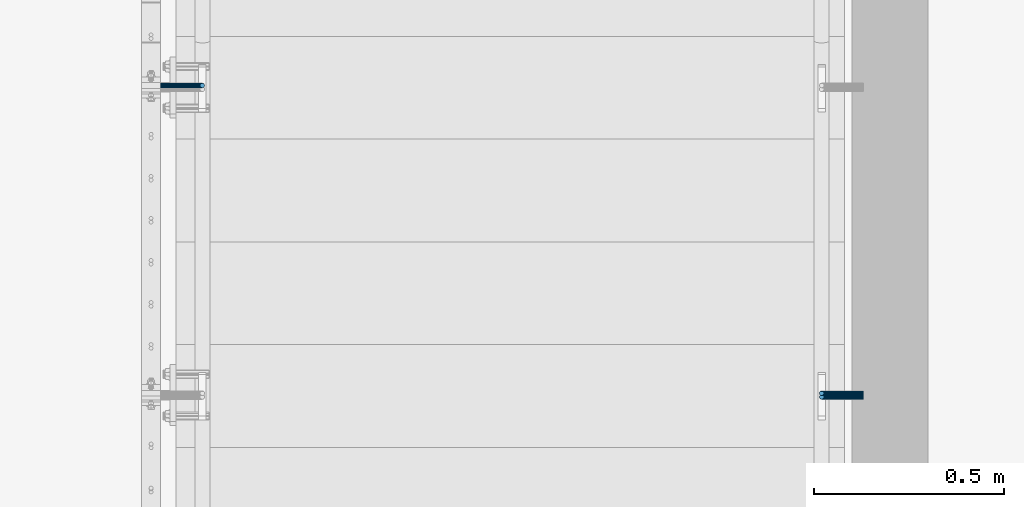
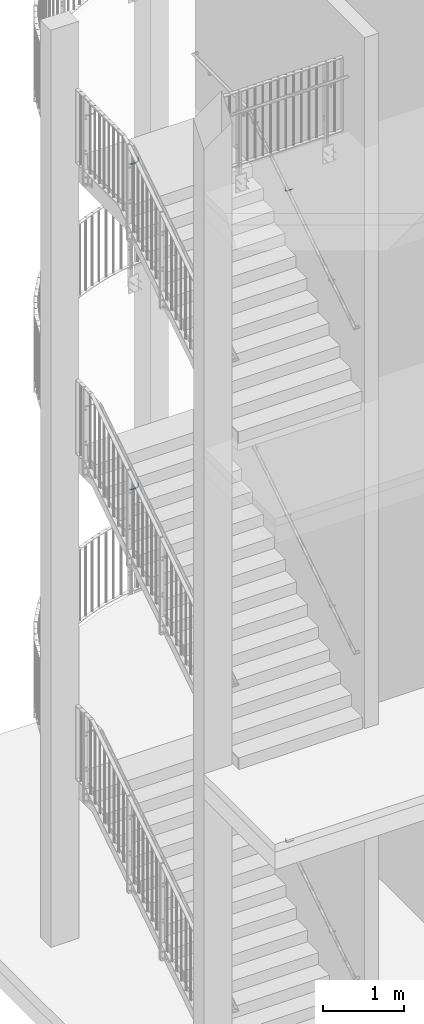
# One storey, part 131 of 296: 4 beams.
"""IFC2X3 building model written with IfcOpenShell, lengths in millimetres."""

from ifc_helpers import new_model, entity, si_unit, converted_unit, origin_with_axes, place, context, project, spatial, faceted_brep, material, element, save


model = new_model("IFC2X3")

# Units and contexts
model_context = context("Model", 3, precision=1e-09, world=origin_with_axes())
ifc_project = project(units=[si_unit("LENGTHUNIT", "METRE", prefix="MILLI"), si_unit("AREAUNIT", "SQUARE_METRE"), si_unit("VOLUMEUNIT", "CUBIC_METRE"), converted_unit("PLANEANGLEUNIT", "DEGREE", entity("IfcPlaneAngleMeasure", 0.01745329), si_unit("PLANEANGLEUNIT", "RADIAN"), dimensions=[0, 0, 0, 0, 0, 0, 0])], contexts=[model_context])

# Site, building, storey
site_placement = place(None, origin_with_axes())
site = spatial("IfcSite", under=ifc_project, at=site_placement, Name="TZD-S?d | Treppenhausgel?nder", CompositionType="ELEMENT")
building_placement = place(site_placement, origin_with_axes())
building = spatial("IfcBuilding", under=site, at=building_placement, Name="Struktur 1", CompositionType="ELEMENT")
storey_placement = place(building_placement, origin_with_axes())
storey = spatial("IfcBuildingStorey", under=building, at=storey_placement, Name="Default Storey", CompositionType="ELEMENT", Elevation=0.0)

# Beams
ifc_material = material(Name="S235JR")
beam_1_placement = place(None, origin_with_axes())
element("IfcBeam", 1, at=beam_1_placement, inside=storey, material=ifc_material, Name="-", ObjectType="-", context=model_context, shape_type="Brep", body=[
    faceted_brep([(1716.893577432, -2374.998162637, 2186.446240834), (1723.106422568, -2374.998162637, 2186.446240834), (1722.296100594, -2374.456722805, 2186.446240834), (1720.0, -2374.0, 2186.446240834), (1717.703899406, -2374.456722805, 2186.446240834), (1715.757359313, -2384.242640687, 2180.448769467), (1714.456722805, -2382.296100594, 2181.711611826), (1714.456722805, -2382.296100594, 2141.446240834), (1715.757359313, -2384.242640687, 2141.446240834), (1717.703899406, -2385.543277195, 2179.604965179), (1717.703899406, -2385.543277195, 2141.446240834), (1720.0, -2386.0, 2179.308660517), (1720.0, -2386.0, 2141.446240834), (1722.296100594, -2385.543277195, 2179.604965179), (1722.296100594, -2385.543277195, 2141.446240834), (1724.242640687, -2384.242640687, 2180.448769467), (1724.242640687, -2384.242640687, 2141.446240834), (1725.543277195, -2382.296100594, 2181.711611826), (1725.543277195, -2382.296100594, 2141.446240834), (1726.0, -2380.0, 2183.201235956), (1726.0, -2380.0, 2141.446240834), (1725.543277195, -2377.703899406, 2184.690860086), (1725.543277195, -2377.703899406, 2141.446240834), (1724.242640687, -2375.757359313, 2185.953702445), (1724.242640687, -2375.757359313, 2141.446240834), (1722.296100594, -2374.456722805, 2141.446240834), (1720.0, -2374.0, 2141.446240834), (1717.703899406, -2374.456722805, 2141.446240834), (1715.757359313, -2375.757359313, 2185.953702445), (1715.757359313, -2375.757359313, 2141.446240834), (1714.456722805, -2377.703899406, 2184.690860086), (1714.456722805, -2377.703899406, 2141.446240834), (1714.0, -2380.0, 2183.201235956), (1714.0, -2380.0, 2141.446240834), (1830.0, -2384.242640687, 2117.203600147), (1830.0, -2382.296100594, 2115.902963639), (1830.0, -2380.0, 2115.446240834), (1830.0, -2377.703899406, 2115.902963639), (1830.0, -2375.757359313, 2117.203600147), (1830.0, -2374.456722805, 2119.15014024), (1830.0, -2374.0, 2121.446240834), (1830.0, -2374.456722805, 2123.742341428), (1830.0, -2375.757359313, 2125.688881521), (1830.0, -2377.703899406, 2126.989518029), (1830.0, -2380.0, 2127.446240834), (1830.0, -2382.296100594, 2126.989518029), (1830.0, -2384.242640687, 2125.688881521), (1830.0, -2385.543277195, 2123.742341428), (1830.0, -2386.0, 2121.446240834), (1830.0, -2385.543277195, 2119.15014024), (1716.401089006, -2382.296100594, 2131.671251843), (1717.602720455, -2384.242640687, 2132.168983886), (1719.401089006, -2385.543277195, 2132.91389253), (1721.52240935, -2386.0, 2133.792572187), (1723.643729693, -2385.543277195, 2134.671251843), (1725.442098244, -2384.242640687, 2135.416160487), (1726.643729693, -2382.296100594, 2135.91389253), (1727.065686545, -2380.0, 2136.088672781), (1726.643729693, -2377.703899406, 2135.91389253), (1725.442098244, -2375.757359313, 2135.416160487), (1723.643729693, -2374.456722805, 2134.671251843), (1721.52240935, -2374.0, 2133.792572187), (1719.401089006, -2374.456722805, 2132.91389253), (1717.602720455, -2375.757359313, 2132.168983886), (1716.401089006, -2377.703899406, 2131.671251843), (1715.979132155, -2380.0, 2131.496471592), (1721.938175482, -2382.296100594, 2123.384416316), (1722.857864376, -2384.242640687, 2124.30410521), (1724.234276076, -2385.543277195, 2125.68051691), (1725.857864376, -2386.0, 2127.30410521), (1727.481452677, -2385.543277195, 2128.927693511), (1728.857864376, -2384.242640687, 2130.30410521), (1729.777553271, -2382.296100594, 2131.223794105), (1730.100505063, -2380.0, 2131.546745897), (1729.777553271, -2377.703899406, 2131.223794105), (1728.857864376, -2375.757359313, 2130.30410521), (1727.481452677, -2374.456722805, 2128.927693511), (1725.857864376, -2374.0, 2127.30410521), (1724.234276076, -2374.456722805, 2125.68051691), (1722.857864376, -2375.757359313, 2124.30410521), (1721.938175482, -2377.703899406, 2123.384416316), (1721.615223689, -2380.0, 2123.061464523), (1730.225011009, -2382.296100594, 2117.84732984), (1730.722743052, -2384.242640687, 2119.048961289), (1731.467651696, -2385.543277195, 2120.84732984), (1732.346331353, -2386.0, 2122.968650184), (1733.225011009, -2385.543277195, 2125.089970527), (1733.969919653, -2384.242640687, 2126.888339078), (1734.467651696, -2382.296100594, 2128.089970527), (1734.642431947, -2380.0, 2128.511927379), (1734.467651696, -2377.703899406, 2128.089970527), (1733.969919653, -2375.757359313, 2126.888339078), (1733.225011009, -2374.456722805, 2125.089970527), (1732.346331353, -2374.0, 2122.968650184), (1731.467651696, -2374.456722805, 2120.84732984), (1730.722743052, -2375.757359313, 2119.048961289), (1730.225011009, -2377.703899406, 2117.84732984), (1730.050230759, -2380.0, 2117.425372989), (1740.0, -2382.296100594, 2115.902963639), (1740.0, -2384.242640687, 2117.203600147), (1740.0, -2385.543277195, 2119.15014024), (1740.0, -2386.0, 2121.446240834), (1740.0, -2385.543277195, 2123.742341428), (1740.0, -2384.242640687, 2125.688881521), (1740.0, -2382.296100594, 2126.989518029), (1740.0, -2380.0, 2127.446240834), (1740.0, -2377.703899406, 2126.989518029), (1740.0, -2375.757359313, 2125.688881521), (1740.0, -2374.456722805, 2123.742341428), (1740.0, -2374.0, 2121.446240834), (1740.0, -2374.456722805, 2119.15014024), (1740.0, -2375.757359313, 2117.203600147), (1740.0, -2377.703899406, 2115.902963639), (1740.0, -2380.0, 2115.446240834)], [[[0, 1, 2, 3, 4]], [[5, 6, 7, 8]], [[9, 5, 8, 10]], [[11, 9, 10, 12]], [[13, 11, 12, 14]], [[15, 13, 14, 16]], [[17, 15, 16, 18]], [[19, 17, 18, 20]], [[21, 19, 20, 22]], [[23, 21, 22, 24]], [[1, 23, 24, 25, 2]], [[3, 2, 25, 26]], [[4, 3, 26, 27]], [[28, 0, 4, 27, 29]], [[30, 28, 29, 31]], [[32, 30, 31, 33]], [[6, 32, 33, 7]], [[17, 19, 21, 23, 1, 0, 28, 30, 32, 6, 5, 9, 11, 13, 15]], [[34, 35, 36, 37, 38, 39, 40, 41, 42, 43, 44, 45, 46, 47, 48, 49]], [[8, 7, 50, 51]], [[10, 8, 51, 52]], [[12, 10, 52, 53]], [[14, 12, 53, 54]], [[16, 14, 54, 55]], [[18, 16, 55, 56]], [[20, 18, 56, 57]], [[22, 20, 57, 58]], [[24, 22, 58, 59]], [[25, 24, 59, 60]], [[26, 25, 60, 61]], [[27, 26, 61, 62]], [[29, 27, 62, 63]], [[31, 29, 63, 64]], [[33, 31, 64, 65]], [[7, 33, 65, 50]], [[51, 50, 66, 67]], [[52, 51, 67, 68]], [[53, 52, 68, 69]], [[54, 53, 69, 70]], [[55, 54, 70, 71]], [[56, 55, 71, 72]], [[57, 56, 72, 73]], [[58, 57, 73, 74]], [[59, 58, 74, 75]], [[60, 59, 75, 76]], [[61, 60, 76, 77]], [[62, 61, 77, 78]], [[63, 62, 78, 79]], [[64, 63, 79, 80]], [[65, 64, 80, 81]], [[50, 65, 81, 66]], [[67, 66, 82, 83]], [[68, 67, 83, 84]], [[69, 68, 84, 85]], [[70, 69, 85, 86]], [[71, 70, 86, 87]], [[72, 71, 87, 88]], [[73, 72, 88, 89]], [[74, 73, 89, 90]], [[75, 74, 90, 91]], [[76, 75, 91, 92]], [[77, 76, 92, 93]], [[78, 77, 93, 94]], [[79, 78, 94, 95]], [[80, 79, 95, 96]], [[81, 80, 96, 97]], [[66, 81, 97, 82]], [[83, 82, 98, 99]], [[84, 83, 99, 100]], [[85, 84, 100, 101]], [[86, 85, 101, 102]], [[87, 86, 102, 103]], [[88, 87, 103, 104]], [[89, 88, 104, 105]], [[90, 89, 105, 106]], [[91, 90, 106, 107]], [[92, 91, 107, 108]], [[93, 92, 108, 109]], [[94, 93, 109, 110]], [[95, 94, 110, 111]], [[96, 95, 111, 112]], [[97, 96, 112, 113]], [[82, 97, 113, 98]], [[99, 98, 35, 34]], [[100, 99, 34, 49]], [[101, 100, 49, 48]], [[102, 101, 48, 47]], [[103, 102, 47, 46]], [[104, 103, 46, 45]], [[105, 104, 45, 44]], [[106, 105, 44, 43]], [[107, 106, 43, 42]], [[108, 107, 42, 41]], [[109, 108, 41, 40]], [[110, 109, 40, 39]], [[111, 110, 39, 38]], [[112, 111, 38, 37]], [[113, 112, 37, 36]], [[98, 113, 36, 35]]]),
])
beam_2_placement = place(None, origin_with_axes())
element("IfcBeam", 2, at=beam_2_placement, inside=storey, material=ifc_material, Name="-", ObjectType="-", context=model_context, shape_type="Brep", body=[
    faceted_brep([(1716.893581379, -2364.99816, 11983.641837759), (1723.106418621, -2364.99816, 11983.641837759), (1722.296100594, -2364.456722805, 11983.641837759), (1720.0, -2364.0, 11983.641837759), (1717.703899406, -2364.456722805, 11983.641837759), (1715.757359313, -2374.242640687, 11977.656568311), (1714.456722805, -2372.296100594, 11978.916841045), (1714.456722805, -2372.296100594, 11938.641837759), (1715.757359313, -2374.242640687, 11938.641837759), (1717.703899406, -2375.543277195, 11976.814480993), (1717.703899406, -2375.543277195, 11938.641837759), (1720.0, -2376.0, 11976.51877925), (1720.0, -2376.0, 11938.641837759), (1722.296100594, -2375.543277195, 11976.814480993), (1722.296100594, -2375.543277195, 11938.641837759), (1724.242640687, -2374.242640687, 11977.656568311), (1724.242640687, -2374.242640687, 11938.641837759), (1725.543277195, -2372.296100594, 11978.916841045), (1725.543277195, -2372.296100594, 11938.641837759), (1726.0, -2370.0, 11980.403434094), (1726.0, -2370.0, 11938.641837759), (1725.543277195, -2367.703899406, 11981.890027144), (1725.543277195, -2367.703899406, 11938.641837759), (1724.242640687, -2365.757359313, 11983.150299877), (1724.242640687, -2365.757359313, 11938.641837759), (1722.296100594, -2364.456722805, 11938.641837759), (1720.0, -2364.0, 11938.641837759), (1717.703899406, -2364.456722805, 11938.641837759), (1715.757359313, -2365.757359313, 11983.150299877), (1715.757359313, -2365.757359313, 11938.641837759), (1714.456722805, -2367.703899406, 11981.890027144), (1714.456722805, -2367.703899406, 11938.641837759), (1714.0, -2370.0, 11980.403434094), (1714.0, -2370.0, 11938.641837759), (1830.0, -2374.242640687, 11914.399197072), (1830.0, -2372.296100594, 11913.098560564), (1830.0, -2370.0, 11912.641837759), (1830.0, -2367.703899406, 11913.098560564), (1830.0, -2365.757359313, 11914.399197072), (1830.0, -2364.456722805, 11916.345737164), (1830.0, -2364.0, 11918.641837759), (1830.0, -2364.456722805, 11920.937938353), (1830.0, -2365.757359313, 11922.884478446), (1830.0, -2367.703899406, 11924.185114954), (1830.0, -2370.0, 11924.641837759), (1830.0, -2372.296100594, 11924.185114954), (1830.0, -2374.242640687, 11922.884478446), (1830.0, -2375.543277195, 11920.937938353), (1830.0, -2376.0, 11918.641837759), (1830.0, -2375.543277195, 11916.345737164), (1716.401089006, -2372.296100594, 11928.866848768), (1717.602720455, -2374.242640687, 11929.364580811), (1719.401089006, -2375.543277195, 11930.109489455), (1721.52240935, -2376.0, 11930.988169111), (1723.643729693, -2375.543277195, 11931.866848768), (1725.442098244, -2374.242640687, 11932.611757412), (1726.643729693, -2372.296100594, 11933.109489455), (1727.065686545, -2370.0, 11933.284269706), (1726.643729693, -2367.703899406, 11933.109489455), (1725.442098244, -2365.757359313, 11932.611757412), (1723.643729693, -2364.456722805, 11931.866848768), (1721.52240935, -2364.0, 11930.988169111), (1719.401089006, -2364.456722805, 11930.109489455), (1717.602720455, -2365.757359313, 11929.364580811), (1716.401089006, -2367.703899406, 11928.866848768), (1715.979132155, -2370.0, 11928.692068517), (1721.938175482, -2372.296100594, 11920.58001324), (1722.857864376, -2374.242640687, 11921.499702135), (1724.234276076, -2375.543277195, 11922.876113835), (1725.857864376, -2376.0, 11924.499702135), (1727.481452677, -2375.543277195, 11926.123290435), (1728.857864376, -2374.242640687, 11927.499702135), (1729.777553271, -2372.296100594, 11928.41939103), (1730.100505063, -2370.0, 11928.742342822), (1729.777553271, -2367.703899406, 11928.41939103), (1728.857864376, -2365.757359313, 11927.499702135), (1727.481452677, -2364.456722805, 11926.123290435), (1725.857864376, -2364.0, 11924.499702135), (1724.234276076, -2364.456722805, 11922.876113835), (1722.857864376, -2365.757359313, 11921.499702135), (1721.938175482, -2367.703899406, 11920.58001324), (1721.615223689, -2370.0, 11920.257061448), (1730.225011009, -2372.296100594, 11915.042926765), (1730.722743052, -2374.242640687, 11916.244558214), (1731.467651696, -2375.543277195, 11918.042926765), (1732.346331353, -2376.0, 11920.164247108), (1733.225011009, -2375.543277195, 11922.285567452), (1733.969919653, -2374.242640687, 11924.083936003), (1734.467651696, -2372.296100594, 11925.285567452), (1734.642431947, -2370.0, 11925.707524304), (1734.467651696, -2367.703899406, 11925.285567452), (1733.969919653, -2365.757359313, 11924.083936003), (1733.225011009, -2364.456722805, 11922.285567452), (1732.346331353, -2364.0, 11920.164247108), (1731.467651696, -2364.456722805, 11918.042926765), (1730.722743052, -2365.757359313, 11916.244558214), (1730.225011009, -2367.703899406, 11915.042926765), (1730.050230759, -2370.0, 11914.620969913), (1740.0, -2372.296100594, 11913.098560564), (1740.0, -2374.242640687, 11914.399197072), (1740.0, -2375.543277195, 11916.345737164), (1740.0, -2376.0, 11918.641837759), (1740.0, -2375.543277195, 11920.937938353), (1740.0, -2374.242640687, 11922.884478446), (1740.0, -2372.296100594, 11924.185114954), (1740.0, -2370.0, 11924.641837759), (1740.0, -2367.703899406, 11924.185114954), (1740.0, -2365.757359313, 11922.884478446), (1740.0, -2364.456722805, 11920.937938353), (1740.0, -2364.0, 11918.641837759), (1740.0, -2364.456722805, 11916.345737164), (1740.0, -2365.757359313, 11914.399197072), (1740.0, -2367.703899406, 11913.098560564), (1740.0, -2370.0, 11912.641837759)], [[[0, 1, 2, 3, 4]], [[5, 6, 7, 8]], [[9, 5, 8, 10]], [[11, 9, 10, 12]], [[13, 11, 12, 14]], [[15, 13, 14, 16]], [[17, 15, 16, 18]], [[19, 17, 18, 20]], [[21, 19, 20, 22]], [[23, 21, 22, 24]], [[1, 23, 24, 25, 2]], [[3, 2, 25, 26]], [[4, 3, 26, 27]], [[28, 0, 4, 27, 29]], [[30, 28, 29, 31]], [[32, 30, 31, 33]], [[6, 32, 33, 7]], [[17, 19, 21, 23, 1, 0, 28, 30, 32, 6, 5, 9, 11, 13, 15]], [[34, 35, 36, 37, 38, 39, 40, 41, 42, 43, 44, 45, 46, 47, 48, 49]], [[8, 7, 50, 51]], [[10, 8, 51, 52]], [[12, 10, 52, 53]], [[14, 12, 53, 54]], [[16, 14, 54, 55]], [[18, 16, 55, 56]], [[20, 18, 56, 57]], [[22, 20, 57, 58]], [[24, 22, 58, 59]], [[25, 24, 59, 60]], [[26, 25, 60, 61]], [[27, 26, 61, 62]], [[29, 27, 62, 63]], [[31, 29, 63, 64]], [[33, 31, 64, 65]], [[7, 33, 65, 50]], [[51, 50, 66, 67]], [[52, 51, 67, 68]], [[53, 52, 68, 69]], [[54, 53, 69, 70]], [[55, 54, 70, 71]], [[56, 55, 71, 72]], [[57, 56, 72, 73]], [[58, 57, 73, 74]], [[59, 58, 74, 75]], [[60, 59, 75, 76]], [[61, 60, 76, 77]], [[62, 61, 77, 78]], [[63, 62, 78, 79]], [[64, 63, 79, 80]], [[65, 64, 80, 81]], [[50, 65, 81, 66]], [[67, 66, 82, 83]], [[68, 67, 83, 84]], [[69, 68, 84, 85]], [[70, 69, 85, 86]], [[71, 70, 86, 87]], [[72, 71, 87, 88]], [[73, 72, 88, 89]], [[74, 73, 89, 90]], [[75, 74, 90, 91]], [[76, 75, 91, 92]], [[77, 76, 92, 93]], [[78, 77, 93, 94]], [[79, 78, 94, 95]], [[80, 79, 95, 96]], [[81, 80, 96, 97]], [[66, 81, 97, 82]], [[83, 82, 98, 99]], [[84, 83, 99, 100]], [[85, 84, 100, 101]], [[86, 85, 101, 102]], [[87, 86, 102, 103]], [[88, 87, 103, 104]], [[89, 88, 104, 105]], [[90, 89, 105, 106]], [[91, 90, 106, 107]], [[92, 91, 107, 108]], [[93, 92, 108, 109]], [[94, 93, 109, 110]], [[95, 94, 110, 111]], [[96, 95, 111, 112]], [[97, 96, 112, 113]], [[82, 97, 113, 98]], [[99, 98, 35, 34]], [[100, 99, 34, 49]], [[101, 100, 49, 48]], [[102, 101, 48, 47]], [[103, 102, 47, 46]], [[104, 103, 46, 45]], [[105, 104, 45, 44]], [[106, 105, 44, 43]], [[107, 106, 43, 42]], [[108, 107, 42, 41]], [[109, 108, 41, 40]], [[110, 109, 40, 39]], [[111, 110, 39, 38]], [[112, 111, 38, 37]], [[113, 112, 37, 36]], [[98, 113, 36, 35]]]),
])
beam_3_placement = place(None, origin_with_axes())
element("IfcBeam", 3, at=beam_3_placement, inside=storey, material=ifc_material, Name="-", ObjectType="-", context=model_context, shape_type="Brep", body=[
    faceted_brep([(86.893581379, -1554.99816, 12508.070241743), (93.106418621, -1554.99816, 12508.070241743), (92.296100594, -1554.456722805, 12508.070241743), (90.0, -1554.0, 12508.070241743), (87.703899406, -1554.456722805, 12508.070241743), (95.543277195, -1562.296100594, 12503.345245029), (94.242640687, -1564.242640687, 12502.084972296), (94.242640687, -1564.242640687, 12463.070241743), (95.543277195, -1562.296100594, 12463.070241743), (92.296100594, -1565.543277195, 12501.242884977), (92.296100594, -1565.543277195, 12463.070241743), (90.0, -1566.0, 12500.947183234), (90.0, -1566.0, 12463.070241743), (87.703899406, -1565.543277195, 12501.242884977), (87.703899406, -1565.543277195, 12463.070241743), (85.757359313, -1564.242640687, 12502.084972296), (85.757359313, -1564.242640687, 12463.070241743), (84.456722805, -1562.296100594, 12503.345245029), (84.456722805, -1562.296100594, 12463.070241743), (84.0, -1560.0, 12504.831838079), (84.0, -1560.0, 12463.070241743), (84.456722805, -1557.703899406, 12506.318431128), (84.456722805, -1557.703899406, 12463.070241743), (85.757359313, -1555.757359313, 12507.578703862), (85.757359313, -1555.757359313, 12463.070241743), (87.703899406, -1554.456722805, 12463.070241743), (90.0, -1554.0, 12463.070241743), (92.296100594, -1554.456722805, 12463.070241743), (94.242640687, -1555.757359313, 12507.578703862), (94.242640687, -1555.757359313, 12463.070241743), (95.543277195, -1557.703899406, 12506.318431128), (95.543277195, -1557.703899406, 12463.070241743), (96.0, -1560.0, 12504.831838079), (96.0, -1560.0, 12463.070241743), (-20.0, -1562.296100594, 12437.526964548), (-20.0, -1564.242640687, 12438.827601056), (-20.0, -1565.543277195, 12440.774141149), (-20.0, -1566.0, 12443.070241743), (-20.0, -1565.543277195, 12445.366342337), (-20.0, -1564.242640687, 12447.31288243), (-20.0, -1562.296100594, 12448.613518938), (-20.0, -1560.0, 12449.070241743), (-20.0, -1557.703899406, 12448.613518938), (-20.0, -1555.757359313, 12447.31288243), (-20.0, -1554.456722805, 12445.366342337), (-20.0, -1554.0, 12443.070241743), (-20.0, -1554.456722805, 12440.774141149), (-20.0, -1555.757359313, 12438.827601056), (-20.0, -1557.703899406, 12437.526964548), (-20.0, -1560.0, 12437.070241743), (92.397279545, -1564.242640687, 12453.792984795), (93.598910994, -1562.296100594, 12453.295252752), (90.598910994, -1565.543277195, 12454.537893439), (88.47759065, -1566.0, 12455.416573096), (86.356270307, -1565.543277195, 12456.295252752), (84.557901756, -1564.242640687, 12457.040161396), (83.356270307, -1562.296100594, 12457.537893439), (82.934313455, -1560.0, 12457.71267369), (83.356270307, -1557.703899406, 12457.537893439), (84.557901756, -1555.757359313, 12457.040161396), (86.356270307, -1554.456722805, 12456.295252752), (88.47759065, -1554.0, 12455.416573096), (90.598910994, -1554.456722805, 12454.537893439), (92.397279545, -1555.757359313, 12453.792984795), (93.598910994, -1557.703899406, 12453.295252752), (94.020867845, -1560.0, 12453.120472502), (87.142135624, -1564.242640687, 12445.928106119), (88.061824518, -1562.296100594, 12445.008417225), (85.765723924, -1565.543277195, 12447.304517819), (84.142135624, -1566.0, 12448.928106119), (82.518547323, -1565.543277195, 12450.55169442), (81.142135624, -1564.242640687, 12451.928106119), (80.222446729, -1562.296100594, 12452.847795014), (79.899494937, -1560.0, 12453.170746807), (80.222446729, -1557.703899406, 12452.847795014), (81.142135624, -1555.757359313, 12451.928106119), (82.518547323, -1554.456722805, 12450.55169442), (84.142135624, -1554.0, 12448.928106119), (85.765723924, -1554.456722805, 12447.304517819), (87.142135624, -1555.757359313, 12445.928106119), (88.061824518, -1557.703899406, 12445.008417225), (88.384776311, -1560.0, 12444.685465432), (79.277256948, -1564.242640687, 12440.672962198), (79.774988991, -1562.296100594, 12439.471330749), (78.532348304, -1565.543277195, 12442.471330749), (77.653668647, -1566.0, 12444.592651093), (76.774988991, -1565.543277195, 12446.713971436), (76.030080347, -1564.242640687, 12448.512339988), (75.532348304, -1562.296100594, 12449.713971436), (75.357568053, -1560.0, 12450.135928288), (75.532348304, -1557.703899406, 12449.713971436), (76.030080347, -1555.757359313, 12448.512339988), (76.774988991, -1554.456722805, 12446.713971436), (77.653668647, -1554.0, 12444.592651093), (78.532348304, -1554.456722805, 12442.471330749), (79.277256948, -1555.757359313, 12440.672962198), (79.774988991, -1557.703899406, 12439.471330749), (79.949769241, -1560.0, 12439.049373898), (70.0, -1564.242640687, 12438.827601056), (70.0, -1562.296100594, 12437.526964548), (70.0, -1565.543277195, 12440.774141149), (70.0, -1566.0, 12443.070241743), (70.0, -1565.543277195, 12445.366342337), (70.0, -1564.242640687, 12447.31288243), (70.0, -1562.296100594, 12448.613518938), (70.0, -1560.0, 12449.070241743), (70.0, -1557.703899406, 12448.613518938), (70.0, -1555.757359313, 12447.31288243), (70.0, -1554.456722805, 12445.366342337), (70.0, -1554.0, 12443.070241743), (70.0, -1554.456722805, 12440.774141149), (70.0, -1555.757359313, 12438.827601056), (70.0, -1557.703899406, 12437.526964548), (70.0, -1560.0, 12437.070241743)], [[[0, 1, 2, 3, 4]], [[5, 6, 7, 8]], [[6, 9, 10, 7]], [[9, 11, 12, 10]], [[11, 13, 14, 12]], [[13, 15, 16, 14]], [[15, 17, 18, 16]], [[17, 19, 20, 18]], [[19, 21, 22, 20]], [[21, 23, 24, 22]], [[23, 0, 4, 25, 24]], [[4, 3, 26, 25]], [[3, 2, 27, 26]], [[1, 28, 29, 27, 2]], [[28, 30, 31, 29]], [[30, 32, 33, 31]], [[32, 5, 8, 33]], [[19, 17, 15, 13, 11, 9, 6, 5, 32, 30, 28, 1, 0, 23, 21]], [[34, 35, 36, 37, 38, 39, 40, 41, 42, 43, 44, 45, 46, 47, 48, 49]], [[8, 7, 50, 51]], [[7, 10, 52, 50]], [[10, 12, 53, 52]], [[12, 14, 54, 53]], [[14, 16, 55, 54]], [[16, 18, 56, 55]], [[18, 20, 57, 56]], [[20, 22, 58, 57]], [[22, 24, 59, 58]], [[24, 25, 60, 59]], [[25, 26, 61, 60]], [[26, 27, 62, 61]], [[27, 29, 63, 62]], [[29, 31, 64, 63]], [[31, 33, 65, 64]], [[33, 8, 51, 65]], [[51, 50, 66, 67]], [[50, 52, 68, 66]], [[52, 53, 69, 68]], [[53, 54, 70, 69]], [[54, 55, 71, 70]], [[55, 56, 72, 71]], [[56, 57, 73, 72]], [[57, 58, 74, 73]], [[58, 59, 75, 74]], [[59, 60, 76, 75]], [[60, 61, 77, 76]], [[61, 62, 78, 77]], [[62, 63, 79, 78]], [[63, 64, 80, 79]], [[64, 65, 81, 80]], [[65, 51, 67, 81]], [[67, 66, 82, 83]], [[66, 68, 84, 82]], [[68, 69, 85, 84]], [[69, 70, 86, 85]], [[70, 71, 87, 86]], [[71, 72, 88, 87]], [[72, 73, 89, 88]], [[73, 74, 90, 89]], [[74, 75, 91, 90]], [[75, 76, 92, 91]], [[76, 77, 93, 92]], [[77, 78, 94, 93]], [[78, 79, 95, 94]], [[79, 80, 96, 95]], [[80, 81, 97, 96]], [[81, 67, 83, 97]], [[83, 82, 98, 99]], [[82, 84, 100, 98]], [[84, 85, 101, 100]], [[85, 86, 102, 101]], [[86, 87, 103, 102]], [[87, 88, 104, 103]], [[88, 89, 105, 104]], [[89, 90, 106, 105]], [[90, 91, 107, 106]], [[91, 92, 108, 107]], [[92, 93, 109, 108]], [[93, 94, 110, 109]], [[94, 95, 111, 110]], [[95, 96, 112, 111]], [[96, 97, 113, 112]], [[97, 83, 99, 113]], [[99, 98, 35, 34]], [[98, 100, 36, 35]], [[100, 101, 37, 36]], [[101, 102, 38, 37]], [[102, 103, 39, 38]], [[103, 104, 40, 39]], [[104, 105, 41, 40]], [[105, 106, 42, 41]], [[106, 107, 43, 42]], [[107, 108, 44, 43]], [[108, 109, 45, 44]], [[109, 110, 46, 45]], [[110, 111, 47, 46]], [[111, 112, 48, 47]], [[112, 113, 49, 48]], [[113, 99, 34, 49]]]),
])
beam_4_placement = place(None, origin_with_axes())
element("IfcBeam", 4, at=beam_4_placement, inside=storey, material=ifc_material, Name="-", ObjectType="-", context=model_context, shape_type="Brep", body=[
    faceted_brep([(86.893587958, -1554.998155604, 7611.984869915), (93.106412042, -1554.998155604, 7611.984869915), (92.296100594, -1554.456722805, 7611.984869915), (90.0, -1554.0, 7611.984869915), (87.703899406, -1554.456722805, 7611.984869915), (95.543277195, -1562.296100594, 7607.27582748), (94.242640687, -1564.242640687, 7606.019810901), (94.242640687, -1564.242640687, 7566.984869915), (95.543277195, -1562.296100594, 7566.984869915), (92.296100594, -1565.543277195, 7605.180567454), (92.296100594, -1565.543277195, 7566.984869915), (90.0, -1566.0, 7604.885864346), (90.0, -1566.0, 7566.984869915), (87.703899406, -1565.543277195, 7605.180567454), (87.703899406, -1565.543277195, 7566.984869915), (85.757359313, -1564.242640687, 7606.019810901), (85.757359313, -1564.242640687, 7566.984869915), (84.456722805, -1562.296100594, 7607.27582748), (84.456722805, -1562.296100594, 7566.984869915), (84.0, -1560.0, 7608.757400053), (84.0, -1560.0, 7566.984869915), (84.456722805, -1557.703899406, 7610.238972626), (84.456722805, -1557.703899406, 7566.984869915), (85.757359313, -1555.757359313, 7611.494989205), (85.757359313, -1555.757359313, 7566.984869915), (87.703899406, -1554.456722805, 7566.984869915), (90.0, -1554.0, 7566.984869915), (92.296100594, -1554.456722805, 7566.984869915), (94.242640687, -1555.757359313, 7611.494989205), (94.242640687, -1555.757359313, 7566.984869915), (95.543277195, -1557.703899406, 7610.238972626), (95.543277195, -1557.703899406, 7566.984869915), (96.0, -1560.0, 7608.757400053), (96.0, -1560.0, 7566.984869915), (-20.0, -1562.296100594, 7541.44159272), (-20.0, -1564.242640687, 7542.742229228), (-20.0, -1565.543277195, 7544.688769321), (-20.0, -1566.0, 7546.984869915), (-20.0, -1565.543277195, 7549.28097051), (-20.0, -1564.242640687, 7551.227510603), (-20.0, -1562.296100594, 7552.528147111), (-20.0, -1560.0, 7552.984869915), (-20.0, -1557.703899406, 7552.528147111), (-20.0, -1555.757359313, 7551.227510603), (-20.0, -1554.456722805, 7549.28097051), (-20.0, -1554.0, 7546.984869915), (-20.0, -1554.456722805, 7544.688769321), (-20.0, -1555.757359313, 7542.742229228), (-20.0, -1557.703899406, 7541.44159272), (-20.0, -1560.0, 7540.984869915), (92.397279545, -1564.242640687, 7557.707612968), (93.598910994, -1562.296100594, 7557.209880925), (90.598910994, -1565.543277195, 7558.452521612), (88.47759065, -1566.0, 7559.331201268), (86.356270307, -1565.543277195, 7560.209880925), (84.557901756, -1564.242640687, 7560.954789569), (83.356270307, -1562.296100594, 7561.452521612), (82.934313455, -1560.0, 7561.627301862), (83.356270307, -1557.703899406, 7561.452521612), (84.557901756, -1555.757359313, 7560.954789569), (86.356270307, -1554.456722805, 7560.209880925), (88.47759065, -1554.0, 7559.331201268), (90.598910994, -1554.456722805, 7558.452521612), (92.397279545, -1555.757359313, 7557.707612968), (93.598910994, -1557.703899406, 7557.209880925), (94.020867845, -1560.0, 7557.035100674), (87.142135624, -1564.242640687, 7549.842734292), (88.061824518, -1562.296100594, 7548.923045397), (85.765723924, -1565.543277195, 7551.219145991), (84.142135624, -1566.0, 7552.842734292), (82.518547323, -1565.543277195, 7554.466322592), (81.142135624, -1564.242640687, 7555.842734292), (80.222446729, -1562.296100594, 7556.762423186), (79.899494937, -1560.0, 7557.085374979), (80.222446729, -1557.703899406, 7556.762423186), (81.142135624, -1555.757359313, 7555.842734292), (82.518547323, -1554.456722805, 7554.466322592), (84.142135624, -1554.0, 7552.842734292), (85.765723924, -1554.456722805, 7551.219145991), (87.142135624, -1555.757359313, 7549.842734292), (88.061824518, -1557.703899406, 7548.923045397), (88.384776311, -1560.0, 7548.600093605), (79.277256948, -1564.242640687, 7544.587590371), (79.774988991, -1562.296100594, 7543.385958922), (78.532348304, -1565.543277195, 7546.385958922), (77.653668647, -1566.0, 7548.507279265), (76.774988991, -1565.543277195, 7550.628599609), (76.030080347, -1564.242640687, 7552.42696816), (75.532348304, -1562.296100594, 7553.628599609), (75.357568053, -1560.0, 7554.05055646), (75.532348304, -1557.703899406, 7553.628599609), (76.030080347, -1555.757359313, 7552.42696816), (76.774988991, -1554.456722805, 7550.628599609), (77.653668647, -1554.0, 7548.507279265), (78.532348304, -1554.456722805, 7546.385958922), (79.277256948, -1555.757359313, 7544.587590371), (79.774988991, -1557.703899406, 7543.385958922), (79.949769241, -1560.0, 7542.96400207), (70.0, -1564.242640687, 7542.742229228), (70.0, -1562.296100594, 7541.44159272), (70.0, -1565.543277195, 7544.688769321), (70.0, -1566.0, 7546.984869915), (70.0, -1565.543277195, 7549.28097051), (70.0, -1564.242640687, 7551.227510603), (70.0, -1562.296100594, 7552.528147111), (70.0, -1560.0, 7552.984869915), (70.0, -1557.703899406, 7552.528147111), (70.0, -1555.757359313, 7551.227510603), (70.0, -1554.456722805, 7549.28097051), (70.0, -1554.0, 7546.984869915), (70.0, -1554.456722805, 7544.688769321), (70.0, -1555.757359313, 7542.742229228), (70.0, -1557.703899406, 7541.44159272), (70.0, -1560.0, 7540.984869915)], [[[0, 1, 2, 3, 4]], [[5, 6, 7, 8]], [[6, 9, 10, 7]], [[9, 11, 12, 10]], [[11, 13, 14, 12]], [[13, 15, 16, 14]], [[15, 17, 18, 16]], [[17, 19, 20, 18]], [[19, 21, 22, 20]], [[21, 23, 24, 22]], [[23, 0, 4, 25, 24]], [[4, 3, 26, 25]], [[3, 2, 27, 26]], [[1, 28, 29, 27, 2]], [[28, 30, 31, 29]], [[30, 32, 33, 31]], [[32, 5, 8, 33]], [[19, 17, 15, 13, 11, 9, 6, 5, 32, 30, 28, 1, 0, 23, 21]], [[34, 35, 36, 37, 38, 39, 40, 41, 42, 43, 44, 45, 46, 47, 48, 49]], [[8, 7, 50, 51]], [[7, 10, 52, 50]], [[10, 12, 53, 52]], [[12, 14, 54, 53]], [[14, 16, 55, 54]], [[16, 18, 56, 55]], [[18, 20, 57, 56]], [[20, 22, 58, 57]], [[22, 24, 59, 58]], [[24, 25, 60, 59]], [[25, 26, 61, 60]], [[26, 27, 62, 61]], [[27, 29, 63, 62]], [[29, 31, 64, 63]], [[31, 33, 65, 64]], [[33, 8, 51, 65]], [[51, 50, 66, 67]], [[50, 52, 68, 66]], [[52, 53, 69, 68]], [[53, 54, 70, 69]], [[54, 55, 71, 70]], [[55, 56, 72, 71]], [[56, 57, 73, 72]], [[57, 58, 74, 73]], [[58, 59, 75, 74]], [[59, 60, 76, 75]], [[60, 61, 77, 76]], [[61, 62, 78, 77]], [[62, 63, 79, 78]], [[63, 64, 80, 79]], [[64, 65, 81, 80]], [[65, 51, 67, 81]], [[67, 66, 82, 83]], [[66, 68, 84, 82]], [[68, 69, 85, 84]], [[69, 70, 86, 85]], [[70, 71, 87, 86]], [[71, 72, 88, 87]], [[72, 73, 89, 88]], [[73, 74, 90, 89]], [[74, 75, 91, 90]], [[75, 76, 92, 91]], [[76, 77, 93, 92]], [[77, 78, 94, 93]], [[78, 79, 95, 94]], [[79, 80, 96, 95]], [[80, 81, 97, 96]], [[81, 67, 83, 97]], [[83, 82, 98, 99]], [[82, 84, 100, 98]], [[84, 85, 101, 100]], [[85, 86, 102, 101]], [[86, 87, 103, 102]], [[87, 88, 104, 103]], [[88, 89, 105, 104]], [[89, 90, 106, 105]], [[90, 91, 107, 106]], [[91, 92, 108, 107]], [[92, 93, 109, 108]], [[93, 94, 110, 109]], [[94, 95, 111, 110]], [[95, 96, 112, 111]], [[96, 97, 113, 112]], [[97, 83, 99, 113]], [[99, 98, 35, 34]], [[98, 100, 36, 35]], [[100, 101, 37, 36]], [[101, 102, 38, 37]], [[102, 103, 39, 38]], [[103, 104, 40, 39]], [[104, 105, 41, 40]], [[105, 106, 42, 41]], [[106, 107, 43, 42]], [[107, 108, 44, 43]], [[108, 109, 45, 44]], [[109, 110, 46, 45]], [[110, 111, 47, 46]], [[111, 112, 48, 47]], [[112, 113, 49, 48]], [[113, 99, 34, 49]]]),
])

save(model, "model.ifc")
